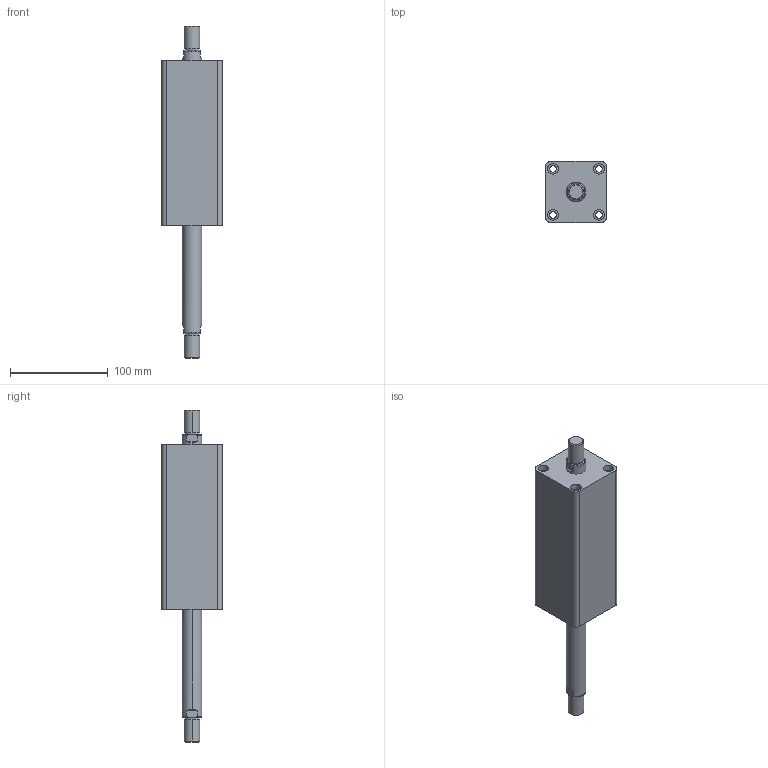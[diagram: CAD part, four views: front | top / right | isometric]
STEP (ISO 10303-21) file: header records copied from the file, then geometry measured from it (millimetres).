
FILE_DESCRIPTION (( 'STEP AP203' ), '1' );
FILE_NAME ('HTB-SW32-100W.STEP', '2019-10-07T09:01:04', ( '微软用户' ), ( '微软中国' ), 'SwSTEP 2.0', 'SolidWorks 2012', '' );
FILE_SCHEMA (( 'CONFIG_CONTROL_DESIGN' ));
Length unit declared in the file: millimetre
Products named in the file (3): HTB-SW32-100W; HTB-SW32-100W活塞杆; HTB-SW32-100掛极
Assembly tree (2 placements, depth 2):
  HTB-SW32-100W
    HTB-SW32-100掛极
    HTB-SW32-100W活塞杆
Bounding box: 62 x 62 x 339 mm (x, y, z)
Volume: 614368.3 mm3; surface area: 101990.7 mm2
Topology: 2 solids, 2 shells, 108 faces, 240 edges, 156 vertices
Faces by surface type: cylinder 52, plane 36, torus 12, cone 8
Entity records: 3449 total; most frequent: CARTESIAN_POINT 629, DIRECTION 586, ORIENTED_EDGE 480, AXIS2_PLACEMENT_3D 249, EDGE_CURVE 240, VERTEX_POINT 156, EDGE_LOOP 138, CIRCLE 136
